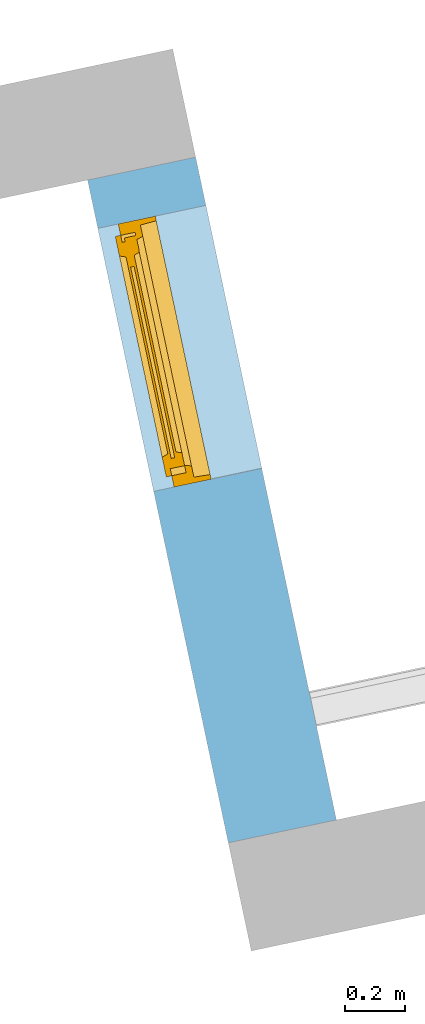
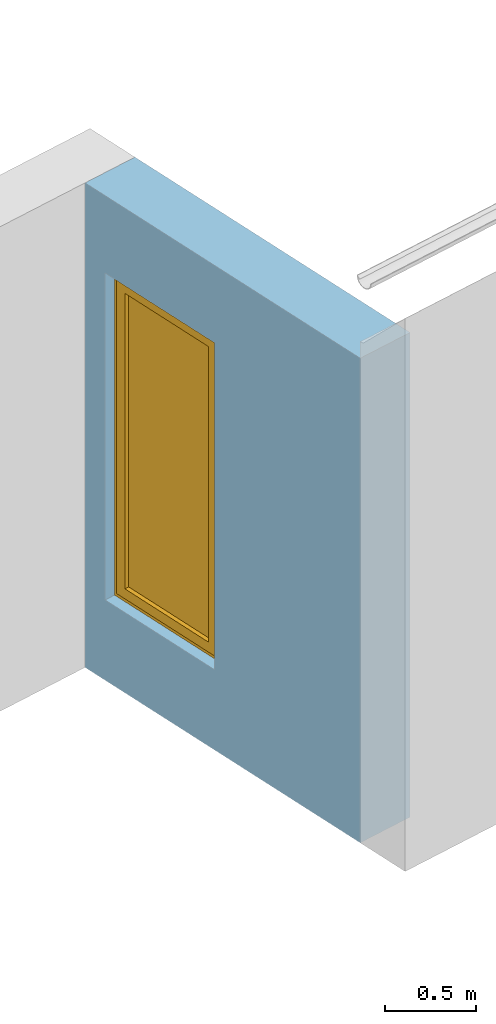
"""IFC2X3 building model written with IfcOpenShell, lengths in centimetres."""

from ifc_helpers import new_model, entity, si_unit, converted_unit, derived_unit, direction, frame, frame_2d, origin, place, context, subcontext, project, spatial, rectangle, extrude, faceted_brep, source, transform, mapped, material, material_list, layer, layer_set, layer_usage, type_object, type_shapes, element, fill, save


model = new_model("IFC2X3")

# Units and contexts
model_context = context("Model", 3, precision=0.001, world=origin(), true_north=direction((6.12303176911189e-17, 1.0)))
body_context = subcontext(model_context, "Body", "Model", "MODEL_VIEW")
ifc_project = project(units=[si_unit("LENGTHUNIT", "METRE", prefix="CENTI"), si_unit("AREAUNIT", "SQUARE_METRE"), si_unit("VOLUMEUNIT", "CUBIC_METRE"), converted_unit("PLANEANGLEUNIT", "DEGREE", entity("IfcRatioMeasure", 0.0174532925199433), si_unit("PLANEANGLEUNIT", "RADIAN"), dimensions=[0, 0, 0, 0, 0, 0, 0]), si_unit("MASSUNIT", "GRAM", prefix="KILO"), derived_unit("MASSDENSITYUNIT", [(si_unit("MASSUNIT", "GRAM", prefix="KILO"), 1), (si_unit("LENGTHUNIT", "METRE"), -3)]), derived_unit("IONCONCENTRATIONUNIT", [(si_unit("MASSUNIT", "GRAM", prefix="KILO"), 1), (si_unit("LENGTHUNIT", "METRE"), -3)]), derived_unit("MOMENTOFINERTIAUNIT", [(si_unit("LENGTHUNIT", "METRE"), 4)]), si_unit("TIMEUNIT", "SECOND"), si_unit("FREQUENCYUNIT", "HERTZ"), si_unit("THERMODYNAMICTEMPERATUREUNIT", "DEGREE_CELSIUS"), derived_unit("THERMALTRANSMITTANCEUNIT", [(si_unit("MASSUNIT", "GRAM", prefix="KILO"), 1), (si_unit("THERMODYNAMICTEMPERATUREUNIT", "KELVIN"), -1), (si_unit("TIMEUNIT", "SECOND"), -3)]), derived_unit("THERMALCONDUCTANCEUNIT", [(si_unit("MASSUNIT", "GRAM", prefix="KILO"), 1), (si_unit("THERMODYNAMICTEMPERATUREUNIT", "KELVIN"), -1), (si_unit("TIMEUNIT", "SECOND"), -3), (si_unit("LENGTHUNIT", "METRE"), 1)]), derived_unit("VOLUMETRICFLOWRATEUNIT", [(si_unit("LENGTHUNIT", "METRE"), 3), (si_unit("TIMEUNIT", "SECOND"), -1)]), derived_unit("MASSFLOWRATEUNIT", [(si_unit("MASSUNIT", "GRAM", prefix="KILO"), 1), (si_unit("TIMEUNIT", "SECOND"), -1)]), derived_unit("ROTATIONALFREQUENCYUNIT", [(si_unit("TIMEUNIT", "SECOND"), -1)]), si_unit("ELECTRICCURRENTUNIT", "AMPERE"), si_unit("ELECTRICVOLTAGEUNIT", "VOLT"), si_unit("POWERUNIT", "WATT"), si_unit("FORCEUNIT", "NEWTON", prefix="KILO"), si_unit("ILLUMINANCEUNIT", "LUX"), si_unit("LUMINOUSFLUXUNIT", "LUMEN"), si_unit("LUMINOUSINTENSITYUNIT", "CANDELA"), derived_unit("USERDEFINED", [(si_unit("MASSUNIT", "GRAM", prefix="KILO"), -1), (si_unit("LENGTHUNIT", "METRE"), -2), (si_unit("TIMEUNIT", "SECOND"), 3), (si_unit("LUMINOUSFLUXUNIT", "LUMEN"), 1)]), derived_unit("USERDEFINED", [(si_unit("MASSUNIT", "GRAM", prefix="KILO"), 1), (si_unit("TIMEUNIT", "SECOND"), -3), (si_unit("LENGTHUNIT", "METRE"), 3), (si_unit("ELECTRICCURRENTUNIT", "AMPERE"), -2)]), derived_unit("SOUNDPOWERUNIT", [(si_unit("MASSUNIT", "GRAM", prefix="KILO"), 1), (si_unit("TIMEUNIT", "SECOND"), -3), (si_unit("LENGTHUNIT", "METRE"), 2)]), derived_unit("SOUNDPRESSUREUNIT", [(si_unit("MASSUNIT", "GRAM", prefix="KILO"), 1), (si_unit("LENGTHUNIT", "METRE"), -1), (si_unit("TIMEUNIT", "SECOND"), -2)]), derived_unit("LINEARVELOCITYUNIT", [(si_unit("LENGTHUNIT", "METRE"), 1), (si_unit("TIMEUNIT", "SECOND"), -1)]), si_unit("PRESSUREUNIT", "PASCAL"), derived_unit("USERDEFINED", [(si_unit("MASSUNIT", "GRAM", prefix="KILO"), 1), (si_unit("LENGTHUNIT", "METRE"), -2), (si_unit("TIMEUNIT", "SECOND"), -2)]), derived_unit("LINEARFORCEUNIT", [(si_unit("MASSUNIT", "GRAM", prefix="KILO"), 1), (si_unit("TIMEUNIT", "SECOND"), -2)]), derived_unit("PLANARFORCEUNIT", [(si_unit("MASSUNIT", "GRAM", prefix="KILO"), 1), (si_unit("LENGTHUNIT", "METRE"), -1), (si_unit("TIMEUNIT", "SECOND"), -2)]), derived_unit("SPECIFICHEATCAPACITYUNIT", [(si_unit("THERMODYNAMICTEMPERATUREUNIT", "KELVIN"), -1), (si_unit("LENGTHUNIT", "METRE"), 2), (si_unit("TIMEUNIT", "SECOND"), -2)]), derived_unit("HEATINGVALUEUNIT", [(si_unit("LENGTHUNIT", "METRE"), 2), (si_unit("TIMEUNIT", "SECOND"), -2)]), derived_unit("VAPORPERMEABILITYUNIT", [(si_unit("LENGTHUNIT", "METRE"), -1), (si_unit("TIMEUNIT", "SECOND"), 1)]), derived_unit("DYNAMICVISCOSITYUNIT", [(si_unit("MASSUNIT", "GRAM", prefix="KILO"), 1), (si_unit("TIMEUNIT", "SECOND"), -1), (si_unit("LENGTHUNIT", "METRE"), -1)]), derived_unit("THERMALEXPANSIONCOEFFICIENTUNIT", [(si_unit("THERMODYNAMICTEMPERATUREUNIT", "KELVIN"), -1)]), derived_unit("MODULUSOFELASTICITYUNIT", [(si_unit("MASSUNIT", "GRAM", prefix="KILO"), 1), (si_unit("LENGTHUNIT", "METRE"), -1), (si_unit("TIMEUNIT", "SECOND"), -2)]), derived_unit("ISOTHERMALMOISTURECAPACITYUNIT", [(si_unit("LENGTHUNIT", "METRE"), 3), (si_unit("MASSUNIT", "GRAM", prefix="KILO"), -1)]), derived_unit("MOISTUREDIFFUSIVITYUNIT", [(si_unit("TIMEUNIT", "SECOND"), -1), (si_unit("LENGTHUNIT", "METRE"), 2)])], contexts=[model_context])

# Site, building, storey
site_placement = place(None, frame((14083.8920177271, -6853.25409548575, 6900.0), z_axis=(0.0, 0.0, 1.0), x_axis=(0.978188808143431, 0.207717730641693, 0.0)))
site = spatial("IfcSite", under=ifc_project, at=site_placement, Name="Surface", CompositionType="ELEMENT")
building_placement = place(site_placement, origin())
building = spatial("IfcBuilding", under=site, at=building_placement, CompositionType="ELEMENT")
storey_1_placement = place(building_placement, frame((0.0, 0.0, -17.0)))
storey_1 = spatial("IfcBuildingStorey", under=building, at=storey_1_placement, Name="Rez de chaussée (SD)", CompositionType="ELEMENT", Elevation=-16.9999999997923)

# Wall, opening
ifc_material_1 = material(Name="__ ENDUIT_Blanc")
ifc_layer_1 = layer(ifc_material_1, 2.0)
ifc_material_2 = material(Name="__ BETON_parpaings")
ifc_layer_2 = layer(ifc_material_2, 20.0)
ifc_material_3 = material(Name="__ ISOLANT (pat 1)")
ifc_layer_3 = layer(ifc_material_3, 13.0)
ifc_layer_4 = layer(ifc_material_1, 2.0)
ifc_layer_set = layer_set([ifc_layer_1, ifc_layer_2, ifc_layer_3, ifc_layer_4], Name="Mur de base:*BRIQUE 37 (20 +INT 13+2 + EXT 2) (Iso+BA13)(enduit)")
ifc_layer_usage = layer_usage(ifc_layer_set, "AXIS2", "NEGATIVE", 18.5)
wall_type = type_object("IfcWallType", Name="Mur de base:*BRIQUE 37 (20 +INT 13+2 + EXT 2) (Iso+BA13)(enduit)", PredefinedType="STANDARD", material=ifc_layer_set)
wall_placement = place(storey_1_placement, frame((-7145.4551432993, 15677.6673447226, -20.0), z_axis=(0.0, 0.0, 1.0), x_axis=(0.0, -1.0, 0.0)))
wall = element("IfcWallStandardCase", 1, at=wall_placement, inside=storey_1, type_object=wall_type, material=ifc_layer_usage, Name="Mur de base:*BRIQUE 37 (20 +INT 13+2 + EXT 2) (Iso+BA13)(enduit)", ObjectType="Mur de base:*BRIQUE 37 (20 +INT 13+2 + EXT 2) (Iso+BA13)(enduit)", context=body_context, shape_type="SweptSolid", body=[
    extrude(rectangle(XDim=226.72820018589, YDim=37.0000000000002, at=frame_2d((113.364100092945, 1.84741111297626e-13), x_axis=(-1.0, 0.0))), origin(), (0.0, 0.0, 1.0), 325.999999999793),
])
opening_placement = place(wall_placement, frame((106.500000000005, -18.5000000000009, 48.3850445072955), z_axis=(0.0, 0.0, 1.0), x_axis=(0.0, 1.0, 0.0)))
opening = element("IfcOpeningElement", 2, at=opening_placement, cuts=wall, Name="Mur de base:*BRIQUE 37 (20 +INT 13+2 + EXT 2) (Iso+BA13)(enduit)", ObjectType="Opening", context=body_context, shape_type="Brep", body=[
    faceted_brep([(0.0, 90.0, 225.614955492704), (0.0, 90.0, 5.61495549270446), (0.0, 0.0, 5.61495549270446), (0.0, 0.0, 225.614955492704), (37.0, 90.0, 225.614955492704), (37.0, 0.0, 225.614955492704), (37.0, 0.0, 5.61495549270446), (37.0, 0.0999999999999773, 5.61495549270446), (37.0, 90.0, 5.61495549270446), (5.20000000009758, 90.0, 225.614955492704), (5.20000000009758, 90.0, 225.714955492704), (5.30000000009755, 90.0, 225.714955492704), (5.30000000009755, 90.0, 225.614955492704), (6.50000000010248, 0.0999999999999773, 5.61495549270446), (6.50000000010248, 0.0, 5.61495549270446), (6.50000000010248, 0.0, 2.11559678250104), (8.99748831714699, 0.0, 2.11559678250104), (39.5000000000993, 0.0, 0.0), (39.5000000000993, 0.0, 5.61495549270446), (25.3000000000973, 0.0, 225.614955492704), (25.3000000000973, 0.0, 225.714955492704), (25.2000000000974, 0.0, 225.714955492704), (25.2000000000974, 0.0, 225.614955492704), (5.30000000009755, 0.0, 225.614955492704), (5.30000000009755, 0.0, 225.714955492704), (5.20000000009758, 0.0, 225.714955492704), (5.20000000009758, 0.0, 225.614955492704), (8.99748831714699, 0.10000000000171, 2.11559678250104), (6.50000000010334, 0.10000000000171, 2.11559678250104), (39.5000000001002, 0.10000000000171, 5.61495549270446), (39.5000000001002, 0.10000000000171, 0.0), (25.2000000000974, 0.10000000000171, 225.714955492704), (25.3000000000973, 0.10000000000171, 225.714955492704), (25.3000000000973, 0.10000000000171, 225.614955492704), (25.2000000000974, 0.10000000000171, 225.614955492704)], [[[0, 1, 2, 3]], [[4, 5, 6, 7, 8]], [[0, 9, 10, 11, 12, 4, 8, 1]], [[1, 8, 7, 13, 14, 2]], [[2, 14, 15, 16, 17, 18, 6, 5, 19, 20, 21, 22, 23, 24, 25, 26, 3]], [[3, 26, 9, 0]], [[27, 28, 13, 7, 29, 30]], [[27, 16, 15, 28]], [[28, 15, 14, 13]], [[29, 7, 6, 18]], [[29, 18, 17, 30]], [[30, 17, 16, 27]], [[31, 32, 33, 34]], [[31, 21, 20, 32]], [[32, 20, 19, 33]], [[34, 22, 21, 31]], [[9, 26, 25, 10]], [[10, 25, 24, 11]], [[11, 24, 23, 12]], [[4, 12, 23, 22, 34, 33, 19, 5]]]),
])

# Storey
storey_2_placement = place(building_placement, frame((0.0, 0.0, 17.0)))
storey_2 = spatial("IfcBuildingStorey", under=building, at=storey_2_placement, Name="Rez de chaussée", CompositionType="ELEMENT", Elevation=17.0000000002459)

# Window
ifc_material_4 = material(Name="<Unnamed>")
ifc_material_5 = material(Name="Fenêtre - Vitrage")
ifc_material_6 = material(Name="Fenêtre - Cadre")
ifc_material_list = material_list([ifc_material_4, ifc_material_5, ifc_material_6])
window_style = type_object("IfcWindowStyle", Name="*PVC 1 VANTAIL:PF 90*220", ConstructionType="NOTDEFINED", OperationType="NOTDEFINED", ParameterTakesPrecedence=False, Sizeable=False, material=ifc_material_list)
shared_shape = source(origin(), body_context, "Body", "Brep", [
    faceted_brep([(5.0, -31.5000000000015, 93.6149554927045), (15.0, -31.5000000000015, 93.6149554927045), (15.0, -29.5000000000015, 93.6149554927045), (5.0, -29.5000000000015, 93.6149554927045), (5.0, -31.5000000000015, 91.6149554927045), (5.0, -29.5000000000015, 91.6149554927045), (15.0, -29.5000000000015, 91.6149554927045), (15.0, -31.5000000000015, 91.6149554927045)], [[[0, 1, 2, 3]], [[4, 5, 6, 7]], [[1, 0, 4, 7]], [[2, 1, 7, 6]], [[3, 2, 6, 5]], [[0, 3, 5, 4]]]),
    faceted_brep([(5.0, -29.5000000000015, 95.6149554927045), (10.0, -29.5000000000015, 95.6149554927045), (10.0, -27.5000000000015, 95.6149554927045), (5.0, -27.5000000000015, 95.6149554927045), (5.0, -29.5000000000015, 90.6149554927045), (5.0, -27.5000000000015, 90.6149554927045), (10.0, -27.5000000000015, 90.6149554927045), (10.0, -29.5000000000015, 90.6149554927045)], [[[0, 1, 2, 3]], [[4, 5, 6, 7]], [[1, 0, 4, 7]], [[2, 1, 7, 6]], [[3, 2, 6, 5]], [[0, 3, 5, 4]]]),
    faceted_brep([(9.58351504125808, -32.2470370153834, 216.031440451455), (80.416484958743, -32.2470370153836, 216.031440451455), (80.416484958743, -31.462821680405, 216.031440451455), (9.58351504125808, -31.4628216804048, 216.031440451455), (9.58351504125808, -32.2470370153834, 15.198470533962), (9.58351504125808, -31.4628216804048, 15.198470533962), (80.416484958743, -31.462821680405, 15.198470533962), (80.416484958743, -32.2470370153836, 15.198470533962)], [[[0, 1, 2, 3]], [[4, 5, 6, 7]], [[1, 0, 4, 7]], [[2, 1, 7, 6]], [[3, 2, 6, 5]], [[0, 3, 5, 4]]]),
    faceted_brep([(80.416484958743, -30.2602611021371, 216.031440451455), (9.58351504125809, -30.2602611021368, 216.031440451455), (9.58351504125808, -30.2602611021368, 15.198470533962), (80.416484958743, -30.2602611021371, 15.198470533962), (80.416484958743, -29.4602611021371, 216.031440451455), (80.416484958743, -29.4602611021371, 15.198470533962), (9.58351504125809, -29.4602611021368, 216.031440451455), (9.58351504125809, -29.4602611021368, 15.198470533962)], [[[0, 1, 2, 3]], [[4, 0, 3, 5]], [[6, 4, 5, 7]], [[1, 6, 7, 2]], [[2, 7, 5, 3]], [[1, 0, 4, 6]]]),
    faceted_brep([(80.4164849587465, -32.2470370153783, 216.031440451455), (80.4164849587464, -29.4602611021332, 216.031440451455), (80.4164849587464, -29.4602611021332, 15.1984705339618), (80.4164849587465, -32.2470370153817, 15.1984705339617), (79.4308358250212, -34.3410294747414, 215.04579131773), (78.6686848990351, -32.2470370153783, 214.283640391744), (78.6686848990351, -32.2470370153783, 16.9462705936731), (79.4308358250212, -34.3410294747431, 16.1841196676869), (86.1236636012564, -32.4970370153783, 221.738619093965), (86.1236636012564, -34.3410294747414, 221.738619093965), (86.1236636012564, -34.3410294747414, 9.49129189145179), (86.1236636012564, -32.4970370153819, 9.49129189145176), (83.7136636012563, -27.5808758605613, 219.328619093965), (83.7136636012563, -32.4970370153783, 219.328619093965), (83.7136636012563, -32.4970370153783, 11.9012918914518), (83.7136636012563, -27.5808758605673, 11.9012918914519), (78.6459619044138, -29.4602611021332, 214.260917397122), (79.3300021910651, -27.5808758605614, 214.944957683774), (79.3300021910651, -27.5808758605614, 16.2849533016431), (78.6459619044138, -29.4602611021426, 16.9689935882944), (9.58351504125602, -29.4602611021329, 15.1984705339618), (9.58351504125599, -32.2470370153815, 15.1984705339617), (11.3313151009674, -32.2470370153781, 16.9462705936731), (10.5691641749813, -34.3410294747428, 16.184119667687), (3.87633639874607, -34.3410294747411, 9.49129189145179), (3.87633639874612, -32.4970370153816, 9.49129189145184), (6.2863363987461, -32.4970370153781, 11.9012918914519), (6.28633639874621, -27.5808758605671, 11.9012918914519), (10.6699978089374, -27.5808758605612, 16.2849533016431), (11.3540380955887, -29.4602611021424, 16.9689935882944), (9.58351504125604, -29.4602611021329, 216.031440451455), (9.58351504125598, -32.2470370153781, 216.031440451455), (11.3313151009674, -32.2470370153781, 214.283640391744), (10.5691641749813, -34.3410294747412, 215.04579131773), (3.87633639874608, -34.3410294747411, 221.738619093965), (3.87633639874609, -32.497037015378, 221.738619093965), (6.28633639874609, -32.4970370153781, 219.328619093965), (6.28633639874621, -27.580875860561, 219.328619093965), (10.6699978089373, -27.5808758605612, 214.944957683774), (11.3540380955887, -29.460261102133, 214.260917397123)], [[[0, 1, 2, 3]], [[4, 5, 6, 7]], [[8, 9, 10, 11]], [[12, 13, 14, 15]], [[16, 17, 18, 19]], [[3, 2, 20, 21]], [[7, 6, 22, 23]], [[11, 10, 24, 25]], [[15, 14, 26, 27]], [[19, 18, 28, 29]], [[21, 20, 30, 31]], [[23, 22, 32, 33]], [[25, 24, 34, 35]], [[27, 26, 36, 37]], [[29, 28, 38, 39]], [[31, 30, 1, 0]], [[3, 21, 31, 0], [5, 32, 22, 6]], [[33, 32, 5, 4]], [[7, 23, 33, 4], [9, 34, 24, 10]], [[35, 34, 9, 8]], [[11, 25, 35, 8], [13, 36, 26, 14]], [[37, 36, 13, 12]], [[15, 27, 37, 12], [17, 38, 28, 18]], [[39, 38, 17, 16]], [[1, 30, 20, 2], [19, 29, 39, 16]]], outer=[[True], [True], [True], [True], [True], [True], [True], [True], [True], [True], [True], [True], [True], [True], [True], [True], [True, False], [True], [False, True], [True], [True, False], [True], [True, False], [True], [True, False]]),
    faceted_brep([(90.0, -19.8517126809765, 225.614955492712), (88.409026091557, -19.8517126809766, 225.614955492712), (88.1211783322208, -25.3441751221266, 225.614955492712), (1.87882166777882, -25.3441751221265, 225.614955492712), (1.59097390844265, -19.8517126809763, 225.614955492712), (0.0, -19.8517126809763, 225.614955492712), (0.0, -32.5000000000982, 225.614955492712), (90.0, -32.5000000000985, 225.614955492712), (0.0, -32.5000000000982, 5.61495549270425), (0.0, -19.8517126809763, 5.61495549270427), (1.59097390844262, -19.8517126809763, 7.20592940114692), (88.409026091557, -19.8517126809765, 7.2059294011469), (90.0, -19.8517126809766, 5.61495549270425), (1.87882166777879, -25.3441751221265, 7.4937771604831), (88.1211783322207, -25.3441751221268, 7.49377716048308), (84.3116576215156, -25.3441751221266, 11.3032978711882), (84.3116576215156, -25.3441751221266, 219.926613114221), (5.68834237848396, -25.3441751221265, 219.926613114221), (5.68834237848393, -25.3441751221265, 11.3032978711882), (6.28633639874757, -27.0808758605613, 11.9012918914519), (6.28633639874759, -27.0808758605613, 219.328619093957), (6.28633639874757, -27.5808758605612, 11.9012918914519), (6.28633639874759, -27.5808758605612, 219.328619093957), (83.713663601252, -27.5808758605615, 219.328619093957), (83.7136636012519, -27.5808758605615, 11.9012918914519), (3.8769231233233, -27.5808758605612, 9.49187861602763), (86.1230768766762, -27.5808758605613, 9.49187861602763), (86.1230768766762, -27.5808758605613, 221.738032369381), (3.87692312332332, -27.5808758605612, 221.738032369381), (3.8769231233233, -32.5000000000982, 9.49187861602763), (3.87692312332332, -32.5000000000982, 221.738032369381), (90.0, -32.5000000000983, 5.61495549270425), (86.1230768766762, -32.5000000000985, 221.738032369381), (86.1230768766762, -32.5000000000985, 9.49187861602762), (83.713663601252, -27.0808758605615, 219.328619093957), (83.7136636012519, -27.0808758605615, 11.9012918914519)], [[[0, 1, 2, 3, 4, 5, 6, 7]], [[8, 6, 5, 9]], [[5, 4, 10, 11, 1, 0, 12, 9]], [[4, 3, 13, 10]], [[3, 2, 14, 13], [15, 16, 17, 18]], [[19, 18, 17, 20]], [[21, 19, 20, 22]], [[21, 22, 23, 24], [25, 26, 27, 28]], [[29, 25, 28, 30]], [[7, 6, 8, 31], [29, 30, 32, 33]], [[32, 30, 28, 27]], [[23, 22, 20, 34]], [[17, 16, 34, 20]], [[26, 25, 29, 33]], [[19, 21, 24, 35]], [[15, 18, 19, 35]], [[11, 10, 13, 14]], [[8, 9, 12, 31]], [[27, 26, 33, 32]], [[35, 24, 23, 34]], [[15, 35, 34, 16]], [[14, 2, 1, 11]], [[12, 0, 7, 31]]], outer=[[True], [True], [True], [True], [True, False], [True], [True], [False, True], [True], [True, False], [True], [True], [True], [True], [True], [True], [True], [True], [True], [True], [True], [True], [True]]),
])
type_shapes(window_style, [shared_shape])
window_placement = place(opening_placement, frame((39.5000000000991, 90.0, 0.0), z_axis=(0.0, 0.0, 1.0), x_axis=(0.0, -1.0, 0.0)))
window = element("IfcWindow", 3, at=window_placement, inside=storey_2, type_object=window_style, material=ifc_material_list, Name="*PVC 1 VANTAIL:PF 90*220", ObjectType="*PVC 1 VANTAIL:PF 90*220", OverallHeight=225.541560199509, OverallWidth=95.000000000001, context=body_context, shape_type="MappedRepresentation", body=[
    mapped(shared_shape, transform((0.0, 0.0, 0.0), scale=1.0)),
])

fill(opening, window)

save(model, "model.ifc")
